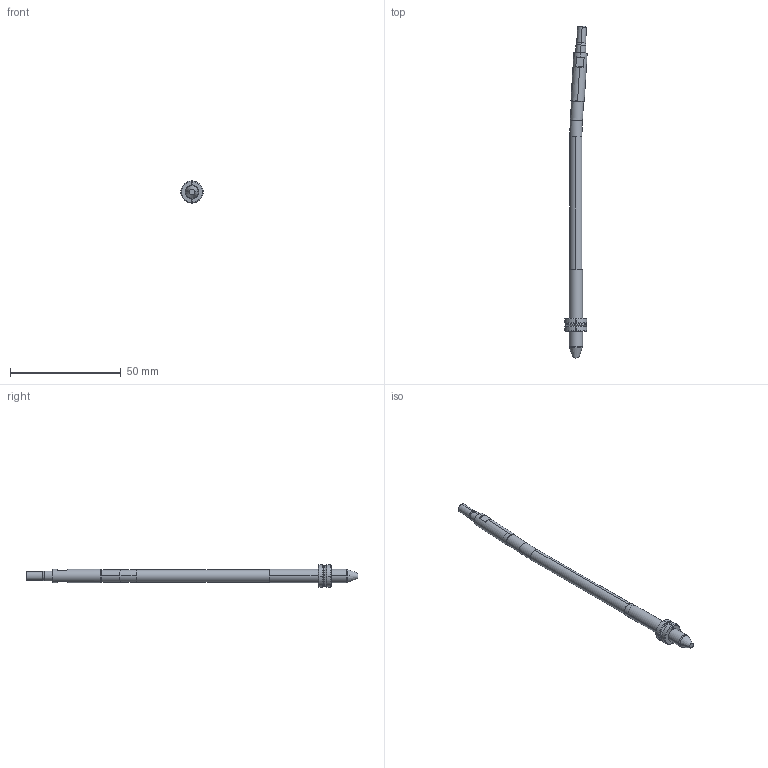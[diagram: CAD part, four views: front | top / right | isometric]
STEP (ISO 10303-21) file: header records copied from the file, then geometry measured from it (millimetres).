
FILE_DESCRIPTION (( 'STEP AP214' ), '1' );
FILE_NAME ('WP060060-OFF 3,5°.STEP', '2020-04-30T09:29:52', ( '' ), ( '' ), 'SwSTEP 2.0', 'SolidWorks 2019', '' );
FILE_SCHEMA (( 'AUTOMOTIVE_DESIGN' ));
Length unit declared in the file: millimetre
Products named in the file (6): WEB-002-9WP060030-2; WP060060-OFF 3,5°; WEB-008-JUNTA-JT7X1X9; WEB-006-9WP060030-6; WEB-001-9WP060030-1; WEB-007-9WP060060-F_WP060060-F-OFF 3,5ø
Assembly tree (5 placements, depth 2):
  WP060060-OFF 3,5°
    WEB-001-9WP060030-1
    WEB-007-9WP060060-F_WP060060-F-OFF 3,5ø
    WEB-002-9WP060030-2
    WEB-006-9WP060030-6
    WEB-008-JUNTA-JT7X1X9
Bounding box: 10.08 x 149.82 x 9.99 mm (x, y, z)
Volume: 3873.8 mm3; surface area: 3434.3 mm2
Topology: 6 solids, 6 shells, 112 faces, 262 edges, 164 vertices
Faces by surface type: cylinder 36, cone 28, plane 28, torus 20
Entity records: 3723 total; most frequent: CARTESIAN_POINT 714, DIRECTION 598, ORIENTED_EDGE 524, EDGE_CURVE 262, AXIS2_PLACEMENT_3D 256, VERTEX_POINT 164, CIRCLE 136, EDGE_LOOP 116
